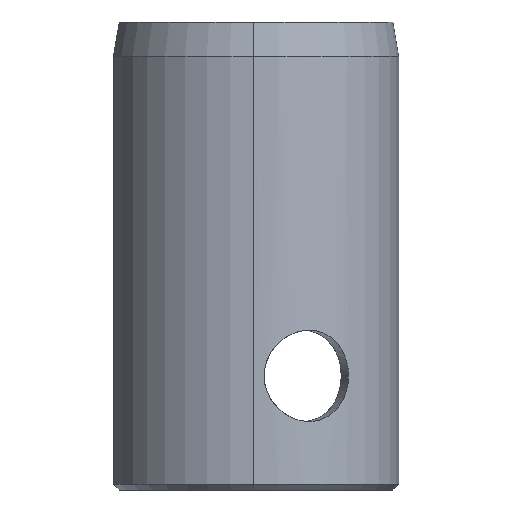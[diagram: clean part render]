
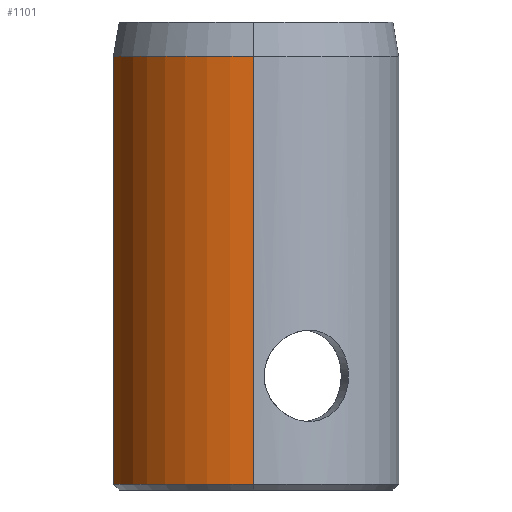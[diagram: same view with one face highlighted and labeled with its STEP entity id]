
A CAD part, left-side view. The second image highlights one B-rep face of the part: STEP entity #1101.
In plain terms, the highlighted cylindrical face has radius 12.7 mm (diameter 25.4 mm), a partial arc.
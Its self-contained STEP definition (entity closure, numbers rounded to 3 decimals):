
#12 = AXIS2_PLACEMENT_3D ( 'NONE', #730, #731, #732 ) ;
#34 = AXIS2_PLACEMENT_3D ( 'NONE', #976, #974, #973 ) ;
#92 = CARTESIAN_POINT ( 'NONE',  ( -3.175, 12.297, 17.5 ) ) ;
#103 = DIRECTION ( 'NONE',  ( 1., 0., 0. ) ) ;
#105 = DIRECTION ( 'NONE',  ( 0., 0., -1. ) ) ;
#106 = CARTESIAN_POINT ( 'NONE',  ( -12.7, 0., 20.5 ) ) ;
#108 = CARTESIAN_POINT ( 'NONE',  ( 0., 0., 17.5 ) ) ;
#111 = DIRECTION ( 'NONE',  ( 0., 0., -1. ) ) ;
#116 = DIRECTION ( 'NONE',  ( 0., 0., -1. ) ) ;
#142 = CARTESIAN_POINT ( 'NONE',  ( -3.175, 12.297, 20.5 ) ) ;
#218 = VERTEX_POINT ( 'NONE', #92 ) ;
#239 = ORIENTED_EDGE ( 'NONE', *, *, #569, .T. ) ;
#248 = ORIENTED_EDGE ( 'NONE', *, *, #574, .F. ) ;
#250 = ORIENTED_EDGE ( 'NONE', *, *, #603, .T. ) ;
#265 = ORIENTED_EDGE ( 'NONE', *, *, #570, .T. ) ;
#490 = VECTOR ( 'NONE', #116, 1000. ) ;
#491 = FACE_OUTER_BOUND ( 'NONE', #688, .T. ) ;
#495 = VECTOR ( 'NONE', #111, 1000. ) ;
#496 = LINE ( 'NONE', #106, #490 ) ;
#497 = CIRCLE ( 'NONE', #627, 12.7 ) ;
#498 = LINE ( 'NONE', #142, #495 ) ;
#569 = EDGE_CURVE ( 'NONE', #218, #645, #498, .T. ) ;
#570 = EDGE_CURVE ( 'NONE', #630, #218, #497, .T. ) ;
#574 = EDGE_CURVE ( 'NONE', #630, #648, #496, .T. ) ;
#603 = EDGE_CURVE ( 'NONE', #645, #648, #1062, .T. ) ;
#627 = AXIS2_PLACEMENT_3D ( 'NONE', #108, #105, #103 ) ;
#630 = VERTEX_POINT ( 'NONE', #912 ) ;
#645 = VERTEX_POINT ( 'NONE', #922 ) ;
#648 = VERTEX_POINT ( 'NONE', #925 ) ;
#688 = EDGE_LOOP ( 'NONE', ( #248, #265, #239, #250 ) ) ;
#730 = CARTESIAN_POINT ( 'NONE',  ( 0., 0., -20. ) ) ;
#731 = DIRECTION ( 'NONE',  ( 0., 0., 1. ) ) ;
#732 = DIRECTION ( 'NONE',  ( 1., 0., 0. ) ) ;
#912 = CARTESIAN_POINT ( 'NONE',  ( -12.7, 0., 17.5 ) ) ;
#922 = CARTESIAN_POINT ( 'NONE',  ( -3.175, 12.297, -20. ) ) ;
#925 = CARTESIAN_POINT ( 'NONE',  ( -12.7, 0., -20. ) ) ;
#973 = DIRECTION ( 'NONE',  ( -1., 0., 0. ) ) ;
#974 = DIRECTION ( 'NONE',  ( 0., 0., -1. ) ) ;
#976 = CARTESIAN_POINT ( 'NONE',  ( 0., 0., 20.5 ) ) ;
#992 = CYLINDRICAL_SURFACE ( 'NONE', #34, 12.7 ) ;
#1062 = CIRCLE ( 'NONE', #12, 12.7 ) ;
#1101 = ADVANCED_FACE ( 'NONE', ( #491 ), #992, .T. ) ;
